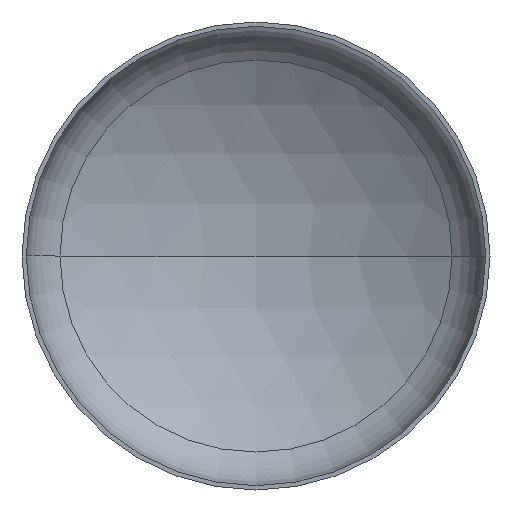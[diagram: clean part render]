
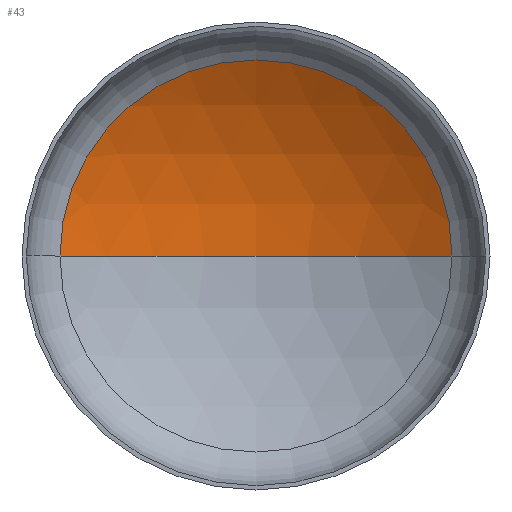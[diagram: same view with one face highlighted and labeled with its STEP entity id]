
A CAD part, front view. The second image highlights one B-rep face of the part: STEP entity #43.
In plain terms, the highlighted spherical face has radius 254 mm.
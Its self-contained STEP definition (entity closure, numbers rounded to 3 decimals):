
#14 = ORIENTED_EDGE ( 'NONE', *, *, #148, .T. ) ;
#42 = AXIS2_PLACEMENT_3D ( 'NONE', #357, #221, #380 ) ;
#43 = ADVANCED_FACE ( 'NONE', ( #156 ), #250, .F. ) ;
#44 = VERTEX_POINT ( 'NONE', #315 ) ;
#46 = AXIS2_PLACEMENT_3D ( 'NONE', #287, #124, #317 ) ;
#49 = AXIS2_PLACEMENT_3D ( 'NONE', #355, #219, #379 ) ;
#60 = ORIENTED_EDGE ( 'NONE', *, *, #139, .T. ) ;
#67 = AXIS2_PLACEMENT_3D ( 'NONE', #132, #314, #332 ) ;
#74 = ORIENTED_EDGE ( 'NONE', *, *, #158, .F. ) ;
#87 = VERTEX_POINT ( 'NONE', #238 ) ;
#101 = EDGE_LOOP ( 'NONE', ( #74, #14, #60 ) ) ;
#124 = DIRECTION ( 'NONE',  ( 0., 0., -1. ) ) ;
#132 = CARTESIAN_POINT ( 'NONE',  ( 0., -152.47, 0. ) ) ;
#139 = EDGE_CURVE ( 'NONE', #310, #44, #224, .T. ) ;
#148 = EDGE_CURVE ( 'NONE', #87, #310, #150, .T. ) ;
#150 = CIRCLE ( 'NONE', #46, 254. ) ;
#156 = FACE_OUTER_BOUND ( 'NONE', #101, .T. ) ;
#158 = EDGE_CURVE ( 'NONE', #87, #44, #160, .T. ) ;
#160 = CIRCLE ( 'NONE', #42, 254. ) ;
#201 = CARTESIAN_POINT ( 'NONE',  ( 135.653, 62.272, 0. ) ) ;
#219 = DIRECTION ( 'NONE',  ( 0., -1., 0. ) ) ;
#221 = DIRECTION ( 'NONE',  ( 0., 0., 1. ) ) ;
#224 = CIRCLE ( 'NONE', #49, 135.653 ) ;
#238 = CARTESIAN_POINT ( 'NONE',  ( 0., 101.53, 0. ) ) ;
#250 = SPHERICAL_SURFACE ( 'NONE', #67, 254. ) ;
#287 = CARTESIAN_POINT ( 'NONE',  ( 0., -152.47, 0. ) ) ;
#310 = VERTEX_POINT ( 'NONE', #201 ) ;
#314 = DIRECTION ( 'NONE',  ( 0., 0., -1. ) ) ;
#315 = CARTESIAN_POINT ( 'NONE',  ( -135.653, 62.272, 0. ) ) ;
#317 = DIRECTION ( 'NONE',  ( -1., 0., 0. ) ) ;
#332 = DIRECTION ( 'NONE',  ( -1., 0., 0. ) ) ;
#355 = CARTESIAN_POINT ( 'NONE',  ( 0., 62.272, 0. ) ) ;
#357 = CARTESIAN_POINT ( 'NONE',  ( 0., -152.47, 0. ) ) ;
#379 = DIRECTION ( 'NONE',  ( 1., 0., 0. ) ) ;
#380 = DIRECTION ( 'NONE',  ( 1., 0., 0. ) ) ;
